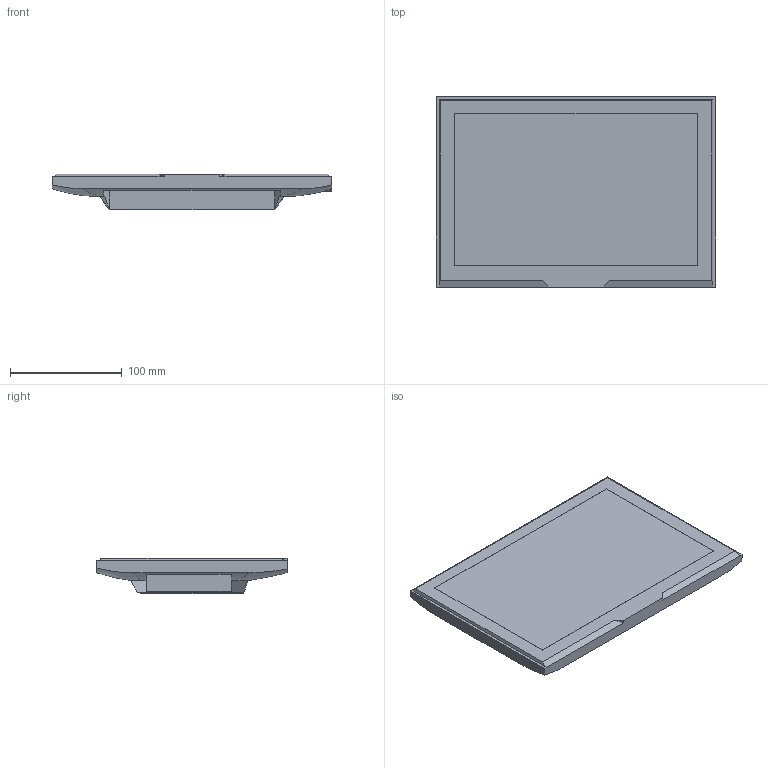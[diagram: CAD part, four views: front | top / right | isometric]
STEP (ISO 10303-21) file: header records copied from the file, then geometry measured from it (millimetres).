
FILE_DESCRIPTION (( 'STEP AP214' ), '1' );
FILE_NAME ('lilliput_FA1014.STEP', '2015-02-27T02:30:48', ( '' ), ( '' ), '', '', '' );
FILE_SCHEMA (( '' ));
Length unit declared in the file: millimetre
Products named in the file (1): lilliput_FA1014
Bounding box: 250 x 170 x 32.1 mm (x, y, z)
Volume: 915108.3 mm3; surface area: 102285.7 mm2
Topology: 1 solids, 1 shells, 70 faces, 183 edges, 120 vertices
Faces by surface type: plane 44, cylinder 17, bspline 9
Entity records: 3094 total; most frequent: CARTESIAN_POINT 1254, ORIENTED_EDGE 366, DIRECTION 299, EDGE_CURVE 183, VERTEX_POINT 120, LINE 109, VECTOR 109, AXIS2_PLACEMENT_3D 95
